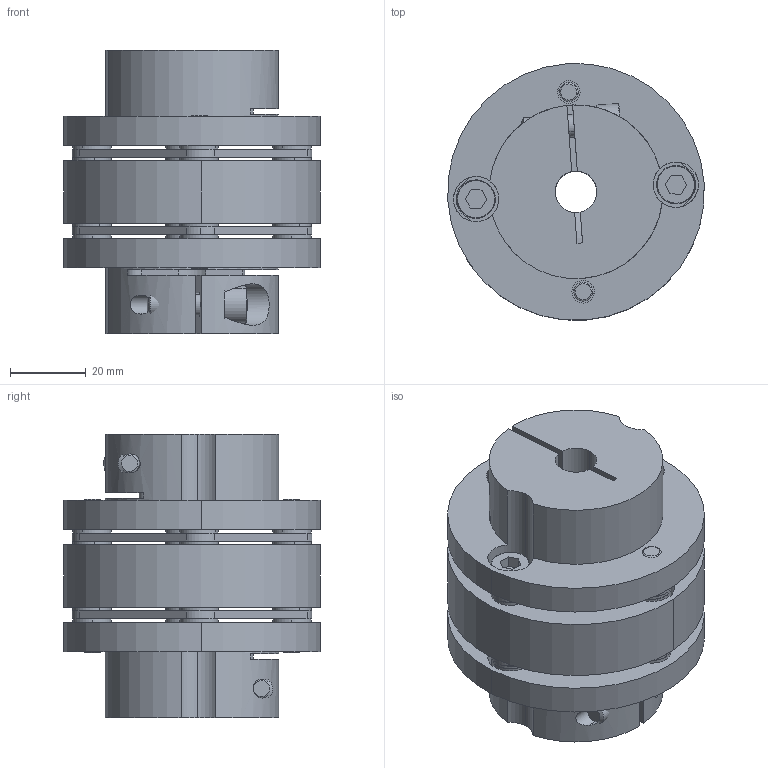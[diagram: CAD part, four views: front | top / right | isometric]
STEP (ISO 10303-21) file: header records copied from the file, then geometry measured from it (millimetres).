
FILE_DESCRIPTION (( 'STEP AP214' ), '1' );
FILE_NAME ('LC-A-060DA-11B-11B.STEP', '2019-09-12T07:20:55', ( 'admin' ), ( 'Microsoft' ), 'SwSTEP 2.0', 'SolidWorks 2016', '' );
FILE_SCHEMA (( 'AUTOMOTIVE_DESIGN' ));
Length unit declared in the file: millimetre
Products named in the file (1): LC-A-060DA-11B-11B
Bounding box: 67.82 x 67.82 x 75.1 mm (x, y, z)
Volume: 152093 mm3; surface area: 57448 mm2
Topology: 31 solids, 31 shells, 436 faces, 1008 edges, 652 vertices
Faces by surface type: cylinder 204, plane 172, torus 40, cone 20
Entity records: 18036 total; most frequent: DIRECTION 2394, CARTESIAN_POINT 2341, ORIENTED_EDGE 2016, EDGE_CURVE 1008, AXIS2_PLACEMENT_3D 961, VERTEX_POINT 652, EDGE_LOOP 544, CIRCLE 524
